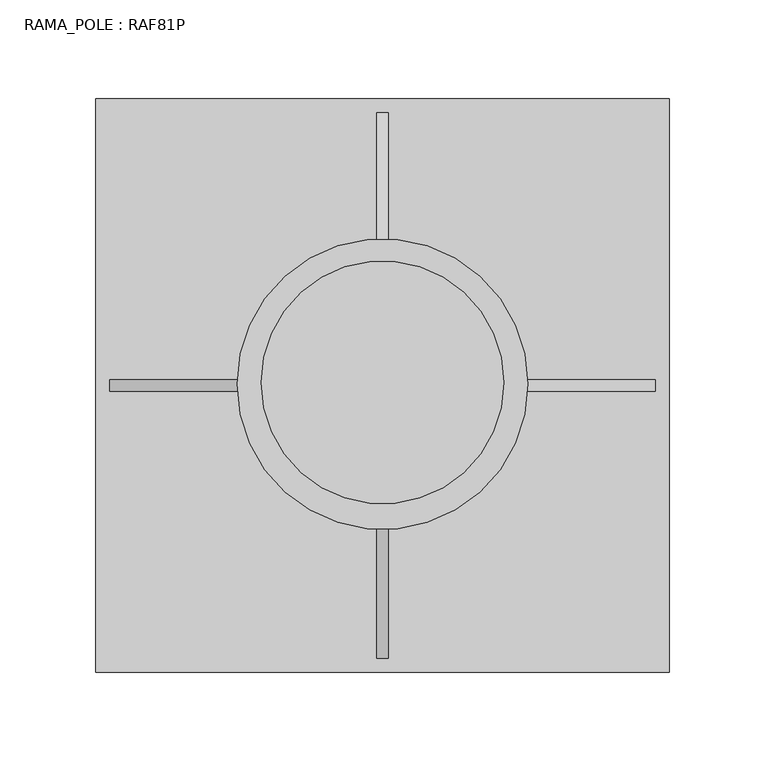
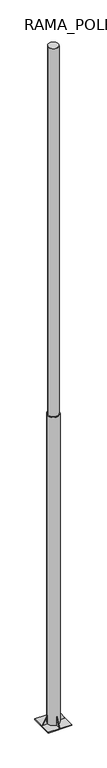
"""IFC4 building model written with IfcOpenShell, lengths in millimetres: light fixture geometry, RAMA_POLE : RAF81P."""

from ifc_helpers import new_model, si_unit, point, frame, origin, origin_2d, place, context, project, spatial, polyline, circle_curve, trimmed, segment, composite_curve, outline, extrude, source, transform, mapped, element, save


def rama_pole_raf81p_039a041a(model_context):
    return source(origin(), model_context, "Body", "SweptSolid", [
        extrude(outline(composite_curve([segment(trimmed(circle_curve(origin_2d(), 76.0), [point((-76.0, 0.0))], [point((76.0, 0.0))], False, "CARTESIAN"), True, "CONTINUOUS"), segment(trimmed(circle_curve(origin_2d(), 76.0), [point((76.0, 0.0))], [point((-76.0, 0.0))], False, "CARTESIAN"), True, "CONTINUOUS")], self_intersect=False)), frame((0.0, 0.0, -190.0), z_axis=(0.0, 0.0, 1.0), x_axis=(1.0, 0.0, 0.0)), (0.0, 0.0, 1.0), 4190.0),
        extrude(outline(polyline([(57.15, -40.0), (142.65, -190.0), (79.9181562, -190.0), (57.15, -150.0558663), (57.15, -40.0)])), frame((-3.0, 0.0, 0.0), z_axis=(1.0, 0.0, 0.0), x_axis=(0.0, 1.0, 0.0)), (0.0, 0.0, 1.0), 6.0),
        extrude(outline(polyline([(-57.15, -40.0), (-57.15, -150.0558663), (-79.9181562, -190.0), (-142.65, -190.0), (-57.15, -40.0)])), frame((-3.0, 0.0, 0.0), z_axis=(1.0, 0.0, 0.0), x_axis=(0.0, 1.0, 0.0)), (0.0, 0.0, 1.0), 6.0),
        extrude(outline(polyline([(-40.0, -57.15), (-190.0, -142.65), (-190.0, -79.9181562), (-150.0558663, -57.15), (-40.0, -57.15)])), frame((0.0, -3.0, 0.0), z_axis=(0.0, 1.0, 0.0), x_axis=(0.0, 0.0, 1.0)), (0.0, 0.0, 1.0), 6.0),
        extrude(outline(polyline([(-40.0, 57.15), (-150.0558663, 57.15), (-190.0, 79.9181562), (-190.0, 142.65), (-40.0, 57.15)])), frame((0.0, -3.0, 0.0), z_axis=(0.0, 1.0, 0.0), x_axis=(0.0, 0.0, 1.0)), (0.0, 0.0, 1.0), 6.0),
        extrude(outline(composite_curve([segment(trimmed(circle_curve(origin_2d(), 63.5), [point((-63.5, 0.0))], [point((63.5, 0.0))], False, "CARTESIAN"), True, "CONTINUOUS"), segment(trimmed(circle_curve(origin_2d(), 63.5), [point((63.5, 0.0))], [point((-63.5, 0.0))], False, "CARTESIAN"), True, "CONTINUOUS")], self_intersect=False)), frame((0.0, 0.0, -190.0), z_axis=(0.0, 0.0, 1.0), x_axis=(1.0, 0.0, 0.0)), (0.0, 0.0, 1.0), 9190.0),
        extrude(outline(polyline([(150.0, 150.0), (150.0, -150.0), (-150.0, -150.0), (-150.0, 150.0), (150.0, 150.0)])), frame((0.0, 0.0, -200.0), z_axis=(0.0, 0.0, 1.0), x_axis=(1.0, 0.0, 0.0)), (0.0, 0.0, 1.0), 10.0),
    ])


if __name__ == "__main__":
    model = new_model("IFC4")
    model_context = context("Model", 3, world=origin())
    ifc_project = project(units=[si_unit("LENGTHUNIT", "METRE", prefix="MILLI")], contexts=[model_context])
    site = spatial("IfcSite", under=ifc_project)
    building = spatial("IfcBuilding", under=site)
    placement = place(None, origin())
    rama_pole_raf81p_shape = rama_pole_raf81p_039a041a(model_context)
    element("IfcLightFixture", 1, ObjectType="RAMA_POLE : RAF81P", at=placement, inside=building, context=model_context, shape_type="MappedRepresentation", body=[
        mapped(rama_pole_raf81p_shape, transform((0.0, 0.0, 0.0), x_axis=(1.0, 0.0, 0.0), y_axis=(0.0, 1.0, 0.0), z_axis=(0.0, 0.0, 1.0))),
    ])
    save(model, "model.ifc")
